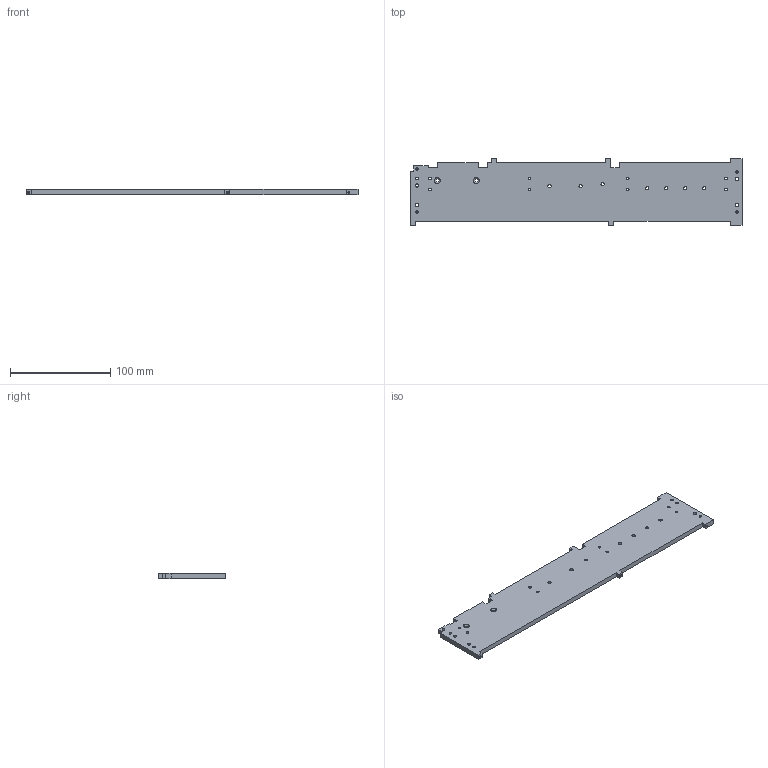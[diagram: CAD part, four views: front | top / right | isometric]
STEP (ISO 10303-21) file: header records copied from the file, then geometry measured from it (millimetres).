
FILE_DESCRIPTION(/* description */ ('','CAx-IF Rec.Pracs.---Representation and Presentation of Product Manufacturing Information (PMI)---4.0---2014-10-13'),/* implementation_level */ '2;1');
FILE_NAME(/* name */ 'G:\Alle CAD Daten\CAMTEC_2020_Pack and Go\PSU CPS-i3000 - CPS-i2000\2011059005.stp',/* time_stamp */ '2020-09-20T20:16:23+02:00',/* author */ ('rryba'),/* organization */ (''),/* preprocessor_version */ 'ST-DEVELOPER v18.1',/* originating_system */ 'Autodesk Inventor 2021',/* authorisation */ '');
FILE_SCHEMA (('AP242_MANAGED_MODEL_BASED_3D_ENGINEERING_MIM_LF { 1 0 10303 442 1 1 4 }'));
Length unit declared in the file: millimetre
Products named in the file (1): 2011059005
Bounding box: 331.5 x 66.7 x 5 mm (x, y, z)
Volume: 95968.9 mm3; surface area: 44388.2 mm2
Topology: 1 solids, 1 shells, 79 faces, 269 edges, 236 vertices
Faces by surface type: plane 36, cylinder 34, cone 9
Full cylindrical faces by diameter (mm): 2.013 x6, 2.459 x13, 3.242 x11, 3.4 x2, 5.9 x2
Entity records: 2889 total; most frequent: CARTESIAN_POINT 531, DIRECTION 448, ORIENTED_EDGE 430, EDGE_CURVE 215, AXIS2_PLACEMENT_3D 151, LINE 146, VECTOR 146, VERTEX_POINT 144
